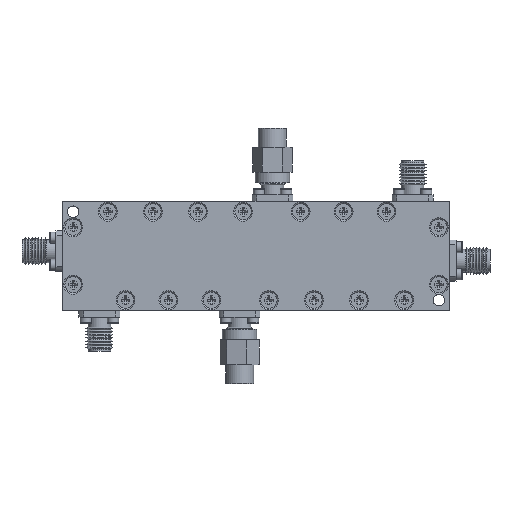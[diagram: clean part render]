
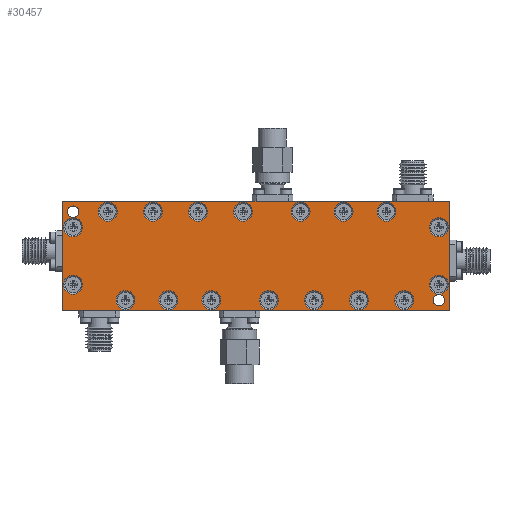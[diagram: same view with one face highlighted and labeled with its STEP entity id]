
A CAD part, top view. The second image highlights one B-rep face of the part: STEP entity #30457.
In plain terms, the highlighted planar face has unit normal (0, 0, 1).
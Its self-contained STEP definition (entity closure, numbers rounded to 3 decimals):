
#631=CIRCLE('',#32182,2.2);
#633=CIRCLE('',#32185,2.2);
#635=CIRCLE('',#32188,2.2);
#637=CIRCLE('',#32191,2.2);
#639=CIRCLE('',#32194,2.2);
#641=CIRCLE('',#32197,2.2);
#643=CIRCLE('',#32200,2.2);
#645=CIRCLE('',#32203,2.2);
#647=CIRCLE('',#32206,2.2);
#649=CIRCLE('',#32209,2.2);
#651=CIRCLE('',#32212,2.2);
#653=CIRCLE('',#32215,2.2);
#655=CIRCLE('',#32218,2.2);
#657=CIRCLE('',#32221,2.2);
#659=CIRCLE('',#32224,2.2);
#661=CIRCLE('',#32227,2.2);
#663=CIRCLE('',#32230,2.2);
#665=CIRCLE('',#32233,2.2);
#666=CIRCLE('',#32235,1.35);
#667=CIRCLE('',#32237,1.35);
#1436=LINE('',#41910,#3392);
#1437=LINE('',#41913,#3393);
#1438=LINE('',#41915,#3394);
#1439=LINE('',#41917,#3395);
#3392=VECTOR('',#35511,1000.);
#3393=VECTOR('',#35512,1000.);
#3394=VECTOR('',#35513,1000.);
#3395=VECTOR('',#35514,1000.);
#5177=PLANE('',#32238);
#7620=ORIENTED_EDGE('',*,*,#12246,.F.);
#7621=ORIENTED_EDGE('',*,*,#12247,.F.);
#7622=ORIENTED_EDGE('',*,*,#12248,.F.);
#7623=ORIENTED_EDGE('',*,*,#12249,.F.);
#7624=ORIENTED_EDGE('',*,*,#12245,.T.);
#7625=ORIENTED_EDGE('',*,*,#12244,.T.);
#7626=ORIENTED_EDGE('',*,*,#12243,.T.);
#7627=ORIENTED_EDGE('',*,*,#12241,.T.);
#7628=ORIENTED_EDGE('',*,*,#12239,.T.);
#7629=ORIENTED_EDGE('',*,*,#12237,.T.);
#7630=ORIENTED_EDGE('',*,*,#12235,.T.);
#7631=ORIENTED_EDGE('',*,*,#12233,.T.);
#7632=ORIENTED_EDGE('',*,*,#12231,.T.);
#7633=ORIENTED_EDGE('',*,*,#12229,.T.);
#7634=ORIENTED_EDGE('',*,*,#12227,.T.);
#7635=ORIENTED_EDGE('',*,*,#12225,.T.);
#7636=ORIENTED_EDGE('',*,*,#12223,.T.);
#7637=ORIENTED_EDGE('',*,*,#12221,.T.);
#7638=ORIENTED_EDGE('',*,*,#12219,.T.);
#7639=ORIENTED_EDGE('',*,*,#12217,.T.);
#7640=ORIENTED_EDGE('',*,*,#12215,.T.);
#7641=ORIENTED_EDGE('',*,*,#12213,.T.);
#7642=ORIENTED_EDGE('',*,*,#12211,.T.);
#7643=ORIENTED_EDGE('',*,*,#12209,.T.);
#12209=EDGE_CURVE('',#14743,#14743,#631,.T.);
#12211=EDGE_CURVE('',#14745,#14745,#633,.T.);
#12213=EDGE_CURVE('',#14747,#14747,#635,.T.);
#12215=EDGE_CURVE('',#14749,#14749,#637,.T.);
#12217=EDGE_CURVE('',#14751,#14751,#639,.T.);
#12219=EDGE_CURVE('',#14753,#14753,#641,.T.);
#12221=EDGE_CURVE('',#14755,#14755,#643,.T.);
#12223=EDGE_CURVE('',#14757,#14757,#645,.T.);
#12225=EDGE_CURVE('',#14759,#14759,#647,.T.);
#12227=EDGE_CURVE('',#14761,#14761,#649,.T.);
#12229=EDGE_CURVE('',#14763,#14763,#651,.T.);
#12231=EDGE_CURVE('',#14765,#14765,#653,.T.);
#12233=EDGE_CURVE('',#14767,#14767,#655,.T.);
#12235=EDGE_CURVE('',#14769,#14769,#657,.T.);
#12237=EDGE_CURVE('',#14771,#14771,#659,.T.);
#12239=EDGE_CURVE('',#14773,#14773,#661,.T.);
#12241=EDGE_CURVE('',#14775,#14775,#663,.T.);
#12243=EDGE_CURVE('',#14777,#14777,#665,.T.);
#12244=EDGE_CURVE('',#14778,#14778,#666,.T.);
#12245=EDGE_CURVE('',#14779,#14779,#667,.T.);
#12246=EDGE_CURVE('',#14780,#14781,#1436,.T.);
#12247=EDGE_CURVE('',#14782,#14780,#1437,.T.);
#12248=EDGE_CURVE('',#14783,#14782,#1438,.T.);
#12249=EDGE_CURVE('',#14781,#14783,#1439,.T.);
#14743=VERTEX_POINT('',#41817);
#14745=VERTEX_POINT('',#41822);
#14747=VERTEX_POINT('',#41827);
#14749=VERTEX_POINT('',#41832);
#14751=VERTEX_POINT('',#41837);
#14753=VERTEX_POINT('',#41842);
#14755=VERTEX_POINT('',#41847);
#14757=VERTEX_POINT('',#41852);
#14759=VERTEX_POINT('',#41857);
#14761=VERTEX_POINT('',#41862);
#14763=VERTEX_POINT('',#41867);
#14765=VERTEX_POINT('',#41872);
#14767=VERTEX_POINT('',#41877);
#14769=VERTEX_POINT('',#41882);
#14771=VERTEX_POINT('',#41887);
#14773=VERTEX_POINT('',#41892);
#14775=VERTEX_POINT('',#41897);
#14777=VERTEX_POINT('',#41902);
#14778=VERTEX_POINT('',#41905);
#14779=VERTEX_POINT('',#41908);
#14780=VERTEX_POINT('',#41911);
#14781=VERTEX_POINT('',#41912);
#14782=VERTEX_POINT('',#41914);
#14783=VERTEX_POINT('',#41916);
#17039=EDGE_LOOP('',(#7620,#7621,#7622,#7623));
#17040=EDGE_LOOP('',(#7624));
#17041=EDGE_LOOP('',(#7625));
#17042=EDGE_LOOP('',(#7626));
#17043=EDGE_LOOP('',(#7627));
#17044=EDGE_LOOP('',(#7628));
#17045=EDGE_LOOP('',(#7629));
#17046=EDGE_LOOP('',(#7630));
#17047=EDGE_LOOP('',(#7631));
#17048=EDGE_LOOP('',(#7632));
#17049=EDGE_LOOP('',(#7633));
#17050=EDGE_LOOP('',(#7634));
#17051=EDGE_LOOP('',(#7635));
#17052=EDGE_LOOP('',(#7636));
#17053=EDGE_LOOP('',(#7637));
#17054=EDGE_LOOP('',(#7638));
#17055=EDGE_LOOP('',(#7639));
#17056=EDGE_LOOP('',(#7640));
#17057=EDGE_LOOP('',(#7641));
#17058=EDGE_LOOP('',(#7642));
#17059=EDGE_LOOP('',(#7643));
#19021=FACE_BOUND('',#17039,.T.);
#19022=FACE_BOUND('',#17040,.T.);
#19023=FACE_BOUND('',#17041,.T.);
#19024=FACE_BOUND('',#17042,.T.);
#19025=FACE_BOUND('',#17043,.T.);
#19026=FACE_BOUND('',#17044,.T.);
#19027=FACE_BOUND('',#17045,.T.);
#19028=FACE_BOUND('',#17046,.T.);
#19029=FACE_BOUND('',#17047,.T.);
#19030=FACE_BOUND('',#17048,.T.);
#19031=FACE_BOUND('',#17049,.T.);
#19032=FACE_BOUND('',#17050,.T.);
#19033=FACE_BOUND('',#17051,.T.);
#19034=FACE_BOUND('',#17052,.T.);
#19035=FACE_BOUND('',#17053,.T.);
#19036=FACE_BOUND('',#17054,.T.);
#19037=FACE_BOUND('',#17055,.T.);
#19038=FACE_BOUND('',#17056,.T.);
#19039=FACE_BOUND('',#17057,.T.);
#19040=FACE_BOUND('',#17058,.T.);
#19041=FACE_BOUND('',#17059,.T.);
#30457=ADVANCED_FACE('',(#19021,#19022,#19023,#19024,#19025,#19026,#19027,
#19028,#19029,#19030,#19031,#19032,#19033,#19034,#19035,#19036,#19037,#19038,
#19039,#19040,#19041),#5177,.F.);
#32182=AXIS2_PLACEMENT_3D('',#41816,#35397,#35398);
#32185=AXIS2_PLACEMENT_3D('',#41821,#35403,#35404);
#32188=AXIS2_PLACEMENT_3D('',#41826,#35409,#35410);
#32191=AXIS2_PLACEMENT_3D('',#41831,#35415,#35416);
#32194=AXIS2_PLACEMENT_3D('',#41836,#35421,#35422);
#32197=AXIS2_PLACEMENT_3D('',#41841,#35427,#35428);
#32200=AXIS2_PLACEMENT_3D('',#41846,#35433,#35434);
#32203=AXIS2_PLACEMENT_3D('',#41851,#35439,#35440);
#32206=AXIS2_PLACEMENT_3D('',#41856,#35445,#35446);
#32209=AXIS2_PLACEMENT_3D('',#41861,#35451,#35452);
#32212=AXIS2_PLACEMENT_3D('',#41866,#35457,#35458);
#32215=AXIS2_PLACEMENT_3D('',#41871,#35463,#35464);
#32218=AXIS2_PLACEMENT_3D('',#41876,#35469,#35470);
#32221=AXIS2_PLACEMENT_3D('',#41881,#35475,#35476);
#32224=AXIS2_PLACEMENT_3D('',#41886,#35481,#35482);
#32227=AXIS2_PLACEMENT_3D('',#41891,#35487,#35488);
#32230=AXIS2_PLACEMENT_3D('',#41896,#35493,#35494);
#32233=AXIS2_PLACEMENT_3D('',#41901,#35499,#35500);
#32235=AXIS2_PLACEMENT_3D('',#41904,#35503,#35504);
#32237=AXIS2_PLACEMENT_3D('',#41907,#35507,#35508);
#32238=AXIS2_PLACEMENT_3D('',#41909,#35509,#35510);
#35397=DIRECTION('',(0.,0.,-1.));
#35398=DIRECTION('',(0.,1.,0.));
#35403=DIRECTION('',(0.,0.,-1.));
#35404=DIRECTION('',(0.,1.,0.));
#35409=DIRECTION('',(0.,0.,-1.));
#35410=DIRECTION('',(0.,1.,0.));
#35415=DIRECTION('',(0.,0.,-1.));
#35416=DIRECTION('',(0.,1.,0.));
#35421=DIRECTION('',(0.,0.,-1.));
#35422=DIRECTION('',(0.,1.,0.));
#35427=DIRECTION('',(0.,0.,-1.));
#35428=DIRECTION('',(0.,1.,0.));
#35433=DIRECTION('',(0.,0.,-1.));
#35434=DIRECTION('',(0.,1.,0.));
#35439=DIRECTION('',(0.,0.,-1.));
#35440=DIRECTION('',(0.,1.,0.));
#35445=DIRECTION('',(0.,0.,-1.));
#35446=DIRECTION('',(0.,1.,0.));
#35451=DIRECTION('',(0.,0.,-1.));
#35452=DIRECTION('',(0.,1.,0.));
#35457=DIRECTION('',(0.,0.,-1.));
#35458=DIRECTION('',(0.,1.,0.));
#35463=DIRECTION('',(0.,0.,-1.));
#35464=DIRECTION('',(0.,1.,0.));
#35469=DIRECTION('',(0.,0.,-1.));
#35470=DIRECTION('',(0.,1.,0.));
#35475=DIRECTION('',(0.,0.,-1.));
#35476=DIRECTION('',(0.,1.,0.));
#35481=DIRECTION('',(0.,0.,-1.));
#35482=DIRECTION('',(0.,1.,0.));
#35487=DIRECTION('',(0.,0.,-1.));
#35488=DIRECTION('',(0.,1.,0.));
#35493=DIRECTION('',(0.,0.,-1.));
#35494=DIRECTION('',(0.,1.,0.));
#35499=DIRECTION('',(0.,0.,-1.));
#35500=DIRECTION('',(0.,1.,0.));
#35503=DIRECTION('',(0.,0.,-1.));
#35504=DIRECTION('',(0.,-1.,0.));
#35507=DIRECTION('',(0.,0.,-1.));
#35508=DIRECTION('',(0.,-1.,0.));
#35509=DIRECTION('',(0.,0.,-1.));
#35510=DIRECTION('',(-1.,0.,0.));
#35511=DIRECTION('',(0.,1.,0.));
#35512=DIRECTION('',(-1.,0.,0.));
#35513=DIRECTION('',(0.,-1.,0.));
#35514=DIRECTION('',(1.,0.,0.));
#41816=CARTESIAN_POINT('',(-30.4,-10.3,5.));
#41817=CARTESIAN_POINT('',(-30.4,-8.1,5.));
#41821=CARTESIAN_POINT('',(-20.4,-10.3,5.));
#41822=CARTESIAN_POINT('',(-20.4,-8.1,5.));
#41826=CARTESIAN_POINT('',(30.4,10.3,5.));
#41827=CARTESIAN_POINT('',(30.4,12.5,5.));
#41831=CARTESIAN_POINT('',(-3.,10.3,5.));
#41832=CARTESIAN_POINT('',(-3.,12.5,5.));
#41836=CARTESIAN_POINT('',(34.5,-10.3,5.));
#41837=CARTESIAN_POINT('',(34.5,-8.1,5.));
#41841=CARTESIAN_POINT('',(24.,-10.3,5.));
#41842=CARTESIAN_POINT('',(24.,-8.1,5.));
#41846=CARTESIAN_POINT('',(13.5,-10.3,5.));
#41847=CARTESIAN_POINT('',(13.5,-8.1,5.));
#41851=CARTESIAN_POINT('',(3.,-10.3,5.));
#41852=CARTESIAN_POINT('',(3.,-8.1,5.));
#41856=CARTESIAN_POINT('',(-10.4,-10.3,5.));
#41857=CARTESIAN_POINT('',(-10.4,-8.1,5.));
#41861=CARTESIAN_POINT('',(-42.6,6.7,5.));
#41862=CARTESIAN_POINT('',(-42.6,8.9,5.));
#41866=CARTESIAN_POINT('',(-42.6,-6.7,5.));
#41867=CARTESIAN_POINT('',(-42.6,-4.5,5.));
#41871=CARTESIAN_POINT('',(42.6,-6.7,5.));
#41872=CARTESIAN_POINT('',(42.6,-4.5,5.));
#41876=CARTESIAN_POINT('',(42.6,6.7,5.));
#41877=CARTESIAN_POINT('',(42.6,8.9,5.));
#41881=CARTESIAN_POINT('',(20.4,10.3,5.));
#41882=CARTESIAN_POINT('',(20.4,12.5,5.));
#41886=CARTESIAN_POINT('',(10.4,10.3,5.));
#41887=CARTESIAN_POINT('',(10.4,12.5,5.));
#41891=CARTESIAN_POINT('',(-13.5,10.3,5.));
#41892=CARTESIAN_POINT('',(-13.5,12.5,5.));
#41896=CARTESIAN_POINT('',(-24.,10.3,5.));
#41897=CARTESIAN_POINT('',(-24.,12.5,5.));
#41901=CARTESIAN_POINT('',(-34.5,10.3,5.));
#41902=CARTESIAN_POINT('',(-34.5,12.5,5.));
#41904=CARTESIAN_POINT('',(42.6,-10.3,5.));
#41905=CARTESIAN_POINT('',(42.6,-11.65,5.));
#41907=CARTESIAN_POINT('',(-42.6,10.3,5.));
#41908=CARTESIAN_POINT('',(-42.6,8.95,5.));
#41909=CARTESIAN_POINT('',(0.,0.,5.));
#41910=CARTESIAN_POINT('',(-45.,-12.7,5.));
#41911=CARTESIAN_POINT('',(-45.,-12.7,5.));
#41912=CARTESIAN_POINT('',(-45.,12.7,5.));
#41913=CARTESIAN_POINT('',(45.,-12.7,5.));
#41914=CARTESIAN_POINT('',(45.,-12.7,5.));
#41915=CARTESIAN_POINT('',(45.,12.7,5.));
#41916=CARTESIAN_POINT('',(45.,12.7,5.));
#41917=CARTESIAN_POINT('',(-45.,12.7,5.));
